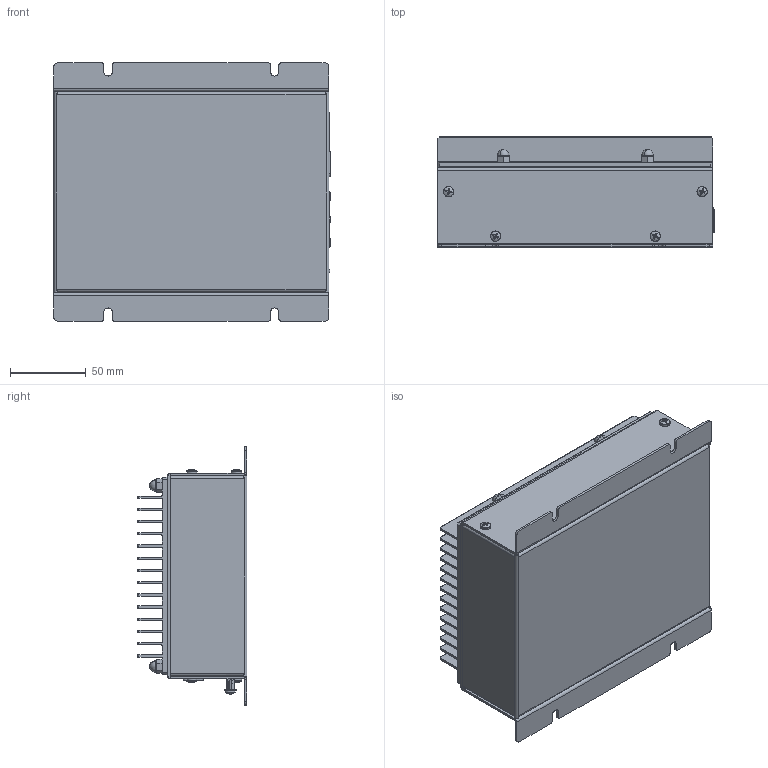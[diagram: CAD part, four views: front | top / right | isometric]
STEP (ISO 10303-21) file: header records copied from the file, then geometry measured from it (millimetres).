
FILE_DESCRIPTION (( 'STEP AP214' ), '1' );
FILE_NAME ('72 cell Final Assembly.STEP', '2019-06-14T19:04:37', ( '' ), ( '' ), 'SwSTEP 2.0', 'SolidWorks 2018', '' );
FILE_SCHEMA (( 'AUTOMOTIVE_DESIGN' ));
Length unit declared in the file: inch
Products named in the file (83): aluminum nut_pmi; thru-hole standoff_pmi; c-1318384-1-e-3d; acorn low crown nut_ai; external tooth lock washer_ai_ASME B18.21.1 - 0.141; pan cross head_ai; flush stud_pmi; 72 cell Final Assembly; 72 cell Box Bottom; 72 cell heatsink 14fin; K3D-MX34028NF2-V2_JAE_Proprietary; Top Board 08-04-16; 93505A465; 72 Cell Board; flush stud_pmi_PEM FHA-632-6 ---N; pan cross head_ai_CR-PHMS 0.138-32x0.188x0.188-N; self-clinching nut_pmi; top board with connectos 8-4-16; Kingbright WP937EGW; thru-hole standoff_pmi_PEM SOA-632-30 ---N; external tooth lock washer_ai; c-1376357-01-3-a1-3d; thru-hole standoff_pmi_PEM SOA-632-8 ---N; aluminum nut_pmi_PEM CLA-632-2 ---N; self-clinching nut_pmi_PEM S-632-2 ZI--N; acorn low crown nut_ai_ALCNUT 0.1380-32-N; 72 Cell Board and connectors; 93505A465_93505A465; 72 cell Enclosure Bottom; 72 cell Enclosure Top; 72 cell box cover
Assembly tree (64 placements, depth 3):
  aluminum nut_pmi
  thru-hole standoff_pmi
  thru-hole standoff_pmi
  c-1318384-1-e-3d
  acorn low crown nut_ai
Bounding box: 182.44 x 72.59 x 170.59 mm (x, y, z)
Volume: 371462.1 mm3; surface area: 434666.5 mm2
Topology: 59 solids, 59 shells, 6805 faces, 18042 edges, 11670 vertices
Faces by surface type: plane 4565, cylinder 1738, cone 278, bspline 122, torus 54, sphere 48
Entity records: 130805 total; most frequent: CARTESIAN_POINT 30373, ORIENTED_EDGE 20996, DIRECTION 19235, EDGE_CURVE 10498, VECTOR 7453, LINE 7453, VERTEX_POINT 6861, AXIS2_PLACEMENT_3D 5891
